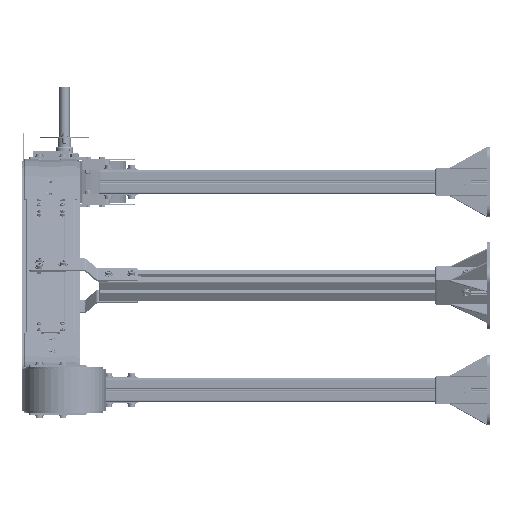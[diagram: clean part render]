
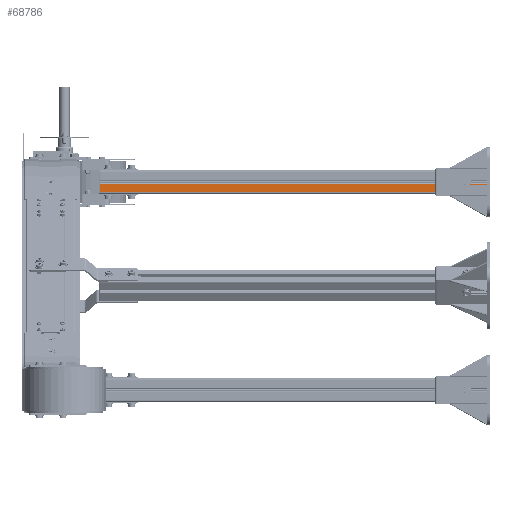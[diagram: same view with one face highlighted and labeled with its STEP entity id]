
A CAD part, left-side view. The second image highlights one B-rep face of the part: STEP entity #68786.
In plain terms, the highlighted planar face has unit normal (-1, 0, 0) as drawn and (0, -1, 0) by its records, which use the part's own axes.
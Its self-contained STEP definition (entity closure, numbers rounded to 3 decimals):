
#4971 = CARTESIAN_POINT ( 'NONE',  ( -750., -22.5, -20. ) ) ;
#16124 = CARTESIAN_POINT ( 'NONE',  ( 0., -22.5, -20. ) ) ;
#17938 = CARTESIAN_POINT ( 'NONE',  ( 0., -22.5, -4.15 ) ) ;
#18504 = EDGE_CURVE ( 'NONE', #35469, #90657, #36167, .T. ) ;
#18656 = DIRECTION ( 'NONE',  ( 1., 0., 0. ) ) ;
#21206 = ORIENTED_EDGE ( 'NONE', *, *, #34327, .T. ) ;
#23429 = LINE ( 'NONE', #77868, #28310 ) ;
#26470 = DIRECTION ( 'NONE',  ( 0., 0., 1. ) ) ;
#27064 = DIRECTION ( 'NONE',  ( 1., 0., 0. ) ) ;
#28310 = VECTOR ( 'NONE', #103915, 1000. ) ;
#31196 = LINE ( 'NONE', #89207, #69577 ) ;
#34327 = EDGE_CURVE ( 'NONE', #90657, #60229, #23429, .T. ) ;
#35469 = VERTEX_POINT ( 'NONE', #4971 ) ;
#36167 = LINE ( 'NONE', #109960, #60982 ) ;
#43584 = ORIENTED_EDGE ( 'NONE', *, *, #103583, .F. ) ;
#44057 = DIRECTION ( 'NONE',  ( 0., 1., 0. ) ) ;
#44651 = PLANE ( 'NONE',  #94284 ) ;
#59027 = DIRECTION ( 'NONE',  ( 0., 0., 1. ) ) ;
#60229 = VERTEX_POINT ( 'NONE', #17938 ) ;
#60982 = VECTOR ( 'NONE', #27064, 1000. ) ;
#68786 = ADVANCED_FACE ( 'NONE', ( #81529 ), #44651, .F. ) ;
#69577 = VECTOR ( 'NONE', #59027, 1000. ) ;
#77868 = CARTESIAN_POINT ( 'NONE',  ( 0., -22.5, -20. ) ) ;
#78591 = CARTESIAN_POINT ( 'NONE',  ( -750., -22.5, -4.15 ) ) ;
#79367 = ORIENTED_EDGE ( 'NONE', *, *, #18504, .T. ) ;
#81529 = FACE_OUTER_BOUND ( 'NONE', #112302, .T. ) ;
#83368 = CARTESIAN_POINT ( 'NONE',  ( -750., -22.5, -4.15 ) ) ;
#88703 = VERTEX_POINT ( 'NONE', #78591 ) ;
#89207 = CARTESIAN_POINT ( 'NONE',  ( -750., -22.5, -20. ) ) ;
#90657 = VERTEX_POINT ( 'NONE', #16124 ) ;
#94284 = AXIS2_PLACEMENT_3D ( 'NONE', #98479, #44057, #26470 ) ;
#98479 = CARTESIAN_POINT ( 'NONE',  ( -750., -22.5, -20. ) ) ;
#99518 = EDGE_CURVE ( 'NONE', #35469, #88703, #31196, .T. ) ;
#101527 = LINE ( 'NONE', #83368, #112384 ) ;
#103583 = EDGE_CURVE ( 'NONE', #88703, #60229, #101527, .T. ) ;
#103915 = DIRECTION ( 'NONE',  ( 0., 0., 1. ) ) ;
#109960 = CARTESIAN_POINT ( 'NONE',  ( -750., -22.5, -20. ) ) ;
#112302 = EDGE_LOOP ( 'NONE', ( #21206, #43584, #114325, #79367 ) ) ;
#112384 = VECTOR ( 'NONE', #18656, 1000. ) ;
#114325 = ORIENTED_EDGE ( 'NONE', *, *, #99518, .F. ) ;
